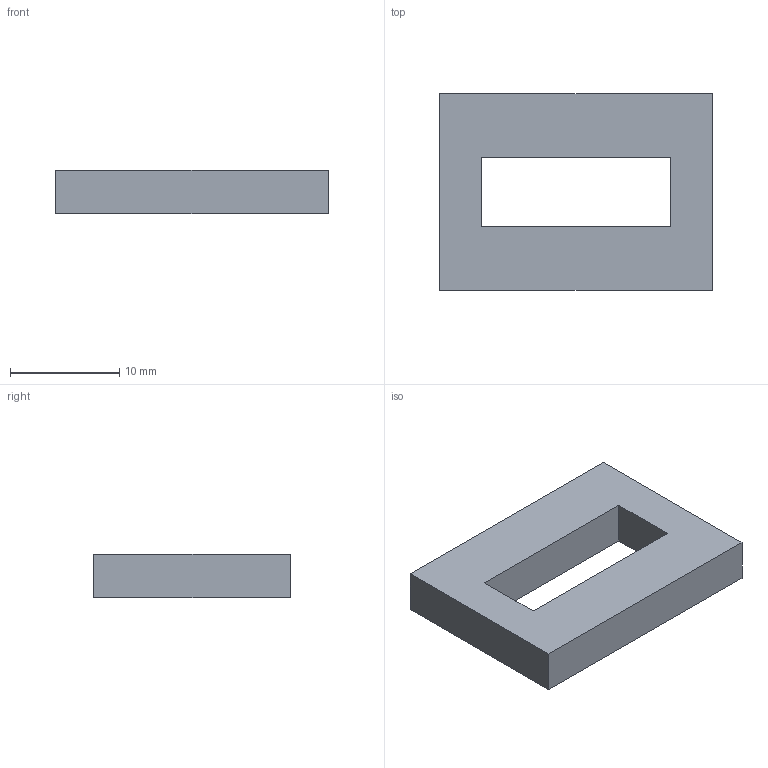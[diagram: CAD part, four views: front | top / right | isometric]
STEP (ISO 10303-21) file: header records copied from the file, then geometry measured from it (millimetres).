
FILE_DESCRIPTION(('FreeCAD Model'),'2;1');
FILE_NAME('Open CASCADE Shape Model','2026-11-20T08:25:39',('FreeCAD'),( 'FreeCAD'),'Open CASCADE STEP processor 7.8','FreeCAD','Unknown');
FILE_SCHEMA(('AUTOMOTIVE_DESIGN { 1 0 10303 214 1 1 1 1 }'));
Length unit declared in the file: millimetre
Products named in the file (1): Open CASCADE STEP translator 7.8 102
Bounding box: 25 x 18 x 4 mm (x, y, z)
Volume: 1361.5 mm3; surface area: 1214.4 mm2
Topology: 1 solids, 1 shells, 10 faces, 24 edges, 16 vertices
Faces by surface type: plane 10
Entity records: 302 total; most frequent: CARTESIAN_POINT 51, ORIENTED_EDGE 48, DIRECTION 46, EDGE_CURVE 24, LINE 24, VECTOR 24, VERTEX_POINT 16, FACE_BOUND 12
